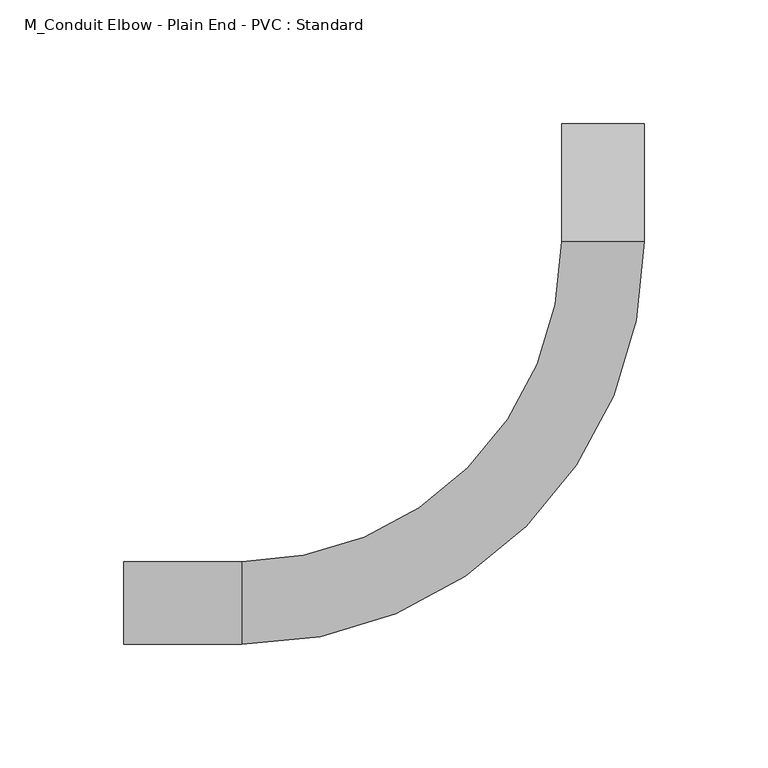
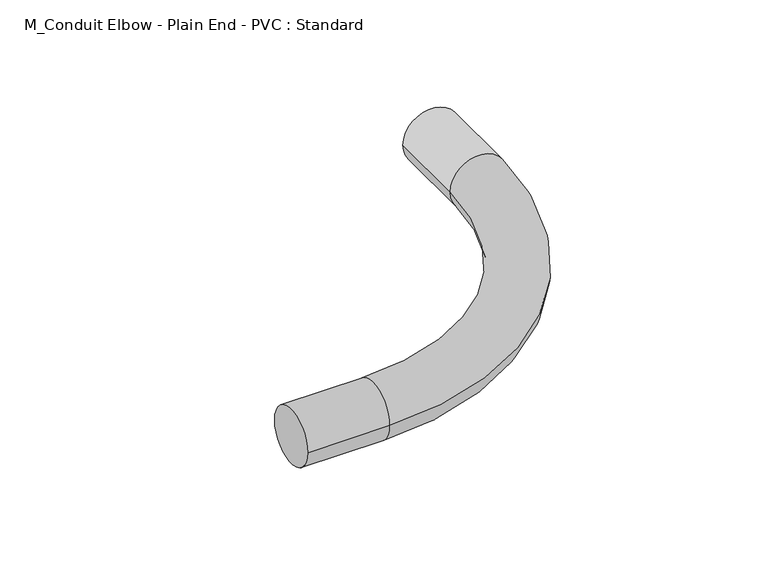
"""IFC4 building model written with IfcOpenShell, lengths in millimetres: cable carrier fitting geometry, M_Conduit Elbow - Plain End - PVC : Standard."""

from ifc_helpers import new_model, si_unit, point, frame, origin, place, context, project, spatial, circle_curve, ellipse_curve, trimmed, source, transform, mapped, element, save
from ifc_brep_helpers import plane_surface, cylinder_surface, revolved_surface, advanced_brep


def m_conduit_elbow_plain_end_pvc_standard_b938fe7a(model_context):
    return source(origin(), model_context, "Body", "AdvancedBrep", [
        advanced_brep(
        [(-193.6921317, -16.7005, 0.0), (-193.6921317, 16.7005, 0.0), (-146.0671317, -16.7005, 0.0), (-146.0671317, 16.7005, 0.0), (-16.7176326, 146.0651718, 0.0), (16.6833672, 146.0690896, 0.0), (16.6777811, 193.6940892, 0.0), (-16.7232187, 193.6901715, 0.0)],
        [
            (0, 1, circle_curve(frame((-193.6921317, 0.0, 0.0), z_axis=(-1.0, 0.0, 0.0), x_axis=(0.0, 1.0, 0.0)), 16.7005)),
            (1, 0, circle_curve(frame((-193.6921317, 0.0, 0.0), z_axis=(-1.0, 0.0, 0.0), x_axis=(0.0, 1.0, 0.0)), 16.7005)),
            (0, 2),
            (2, 3, circle_curve(frame((-146.0671317, 0.0, 0.0), z_axis=(-1.0, 0.0, 0.0), x_axis=(0.0, 1.0, 0.0)), 16.7005)),
            (3, 1),
            (3, 2, circle_curve(frame((-146.0671317, 0.0, 0.0), z_axis=(-1.0, 0.0, 0.0), x_axis=(0.0, 1.0, 0.0)), 16.7005)),
            (4, 3, circle_curve(frame((-146.0671317, 146.05, 0.0), z_axis=(0.0, 0.0, -1.0), x_axis=(0.0, -1.0, 0.0)), 129.3495)),
            (2, 5, circle_curve(frame((-146.0671317, 146.05, 0.0), z_axis=(0.0, 0.0, 1.0), x_axis=(0.0, -1.0, 0.0)), 162.7505)),
            (5, 4, circle_curve(frame((-0.0171327, 146.0671307, 0.0), z_axis=(0.0001172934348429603, -0.9999999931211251, 0.0), x_axis=(-0.9999999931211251, -0.0001172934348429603, 0.0)), 16.7005)),
            (4, 5, circle_curve(frame((-0.0171327, 146.0671307, 0.0), z_axis=(0.0001172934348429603, -0.9999999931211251, 0.0), x_axis=(-0.9999999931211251, -0.0001172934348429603, 0.0)), 16.7005)),
            (6, 7, circle_curve(frame((-0.0227188, 193.6921304, 0.0), z_axis=(-0.00011729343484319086, 0.9999999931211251, 0.0), x_axis=(-0.9999999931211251, -0.00011729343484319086, 0.0)), 16.7005)),
            (7, 6, circle_curve(frame((-0.0227188, 193.6921304, 0.0), z_axis=(-0.00011729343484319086, 0.9999999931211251, 0.0), x_axis=(-0.9999999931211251, -0.00011729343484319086, 0.0)), 16.7005)),
            (5, 6),
            (7, 4),
        ],
        [
            plane_surface(frame((-193.6921317, 0.0, 0.0), z_axis=(-1.0, 0.0, 0.0), x_axis=(0.0, 0.0, 1.0))),
            cylinder_surface(frame((-193.6921317, 0.0, 0.0), z_axis=(-1.0, 0.0, 0.0), x_axis=(0.0, 1.0, 0.0)), 16.7005),
            revolved_surface(trimmed(ellipse_curve(frame((-146.0671317, 0.0, 0.0), z_axis=(-1.0, 0.0, 0.0), x_axis=(0.0, 1.0, 0.0)), 16.7005, 16.7005), [point((-146.0671317, -16.7005, 0.0))], [point((-146.0671317, 16.7005, 0.0))], True, "CARTESIAN"), (-146.0671317, 146.05, 0.0), (0.0, 0.0, 1.0)),
            revolved_surface(trimmed(ellipse_curve(frame((-146.0671317, 0.0, 0.0), z_axis=(-1.0, 0.0, 0.0), x_axis=(0.0, 1.0, 0.0)), 16.7005, 16.7005), [point((-146.0671317, 16.7005, 0.0))], [point((-146.0671317, -16.7005, 0.0))], True, "CARTESIAN"), (-146.0671317, 146.05, 0.0), (0.0, 0.0, 1.0)),
            plane_surface(frame((-0.0227188, 193.6921304, 0.0), z_axis=(-0.00011729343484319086, 0.9999999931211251, 0.0), x_axis=(0.0, 0.0, 1.0))),
            cylinder_surface(frame((-0.0171327, 146.0671307, 0.0), z_axis=(0.00011729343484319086, -0.9999999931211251, 0.0), x_axis=(-0.9999999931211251, -0.00011729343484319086, 0.0)), 16.7005),
        ],
        [
            (0, [[1, 2]]),
            (1, [[-1, 3, 4, 5]]),
            (1, [[-2, -5, 6, -3]]),
            (2, [[7, -4, 8, 9]]),
            (3, [[-8, -6, -7, 10]]),
            (4, [[11, 12]]),
            (5, [[-9, 13, -12, 14]]),
            (5, [[-10, -14, -11, -13]]),
        ],
    ),
    ])


if __name__ == "__main__":
    model = new_model("IFC4")
    model_context = context("Model", 3, world=origin())
    ifc_project = project(units=[si_unit("LENGTHUNIT", "METRE", prefix="MILLI")], contexts=[model_context])
    site = spatial("IfcSite", under=ifc_project)
    building = spatial("IfcBuilding", under=site)
    placement = place(None, origin())
    m_conduit_elbow_plain_end_pvc_standard_shape = m_conduit_elbow_plain_end_pvc_standard_b938fe7a(model_context)
    element("IfcCableCarrierFitting", 1, ObjectType="M_Conduit Elbow - Plain End - PVC : Standard", at=placement, inside=building, context=model_context, shape_type="MappedRepresentation", body=[
        mapped(m_conduit_elbow_plain_end_pvc_standard_shape, transform((0.0, 0.0, 0.0), x_axis=(1.0, 0.0, 0.0), y_axis=(0.0, 1.0, 0.0), z_axis=(0.0, 0.0, 1.0))),
    ])
    save(model, "model.ifc")
